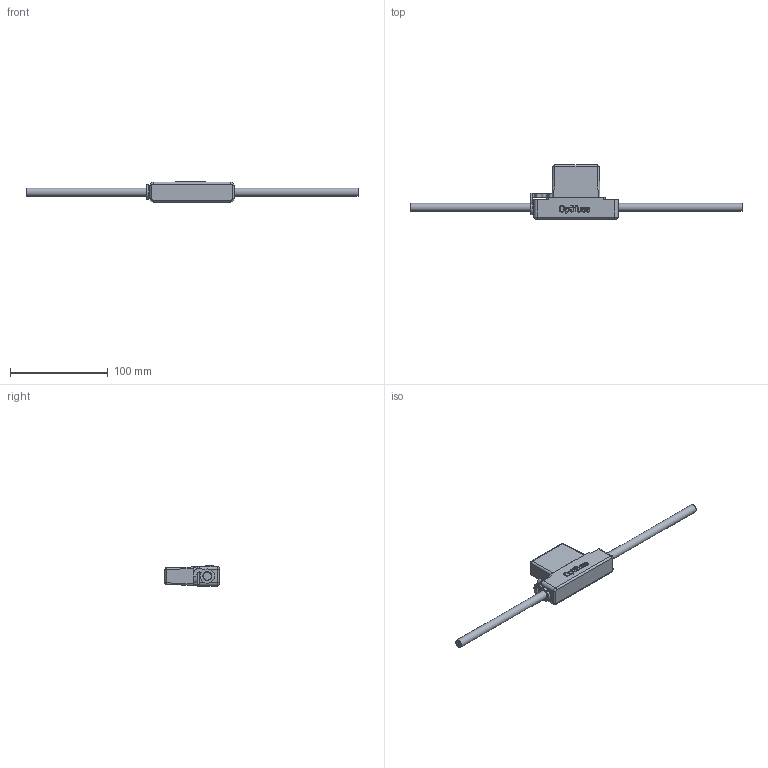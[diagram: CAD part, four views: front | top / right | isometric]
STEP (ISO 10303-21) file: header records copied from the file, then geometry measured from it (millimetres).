
FILE_DESCRIPTION(/* description */ (''),/* implementation_level */ '2;1');
FILE_NAME(/* name */ 'C:\Users\Hani\Desktop\work\LPX-04B\LPX-04.stp',/* time_stamp */ '2021-07-17T11:28:56-07:00',/* author */ ('Hani'),/* organization */ (''),/* preprocessor_version */ 'ST-DEVELOPER v17',/* originating_system */ 'Autodesk Inventor 2019',/* authorisation */ '');
FILE_SCHEMA (('AUTOMOTIVE_DESIGN { 1 0 10303 214 3 1 1 }'));
Length unit declared in the file: inch
Products named in the file (1): LPX-01
Bounding box: 340.11 x 55.4 x 20.57 mm (x, y, z)
Volume: 63497.2 mm3; surface area: 24945.8 mm2
Topology: 3 solids, 3 shells, 209 faces, 537 edges, 350 vertices
Faces by surface type: plane 104, bspline 77, cylinder 24, sphere 4
Full cylindrical faces by diameter (mm): 8.331 x2, 9.144 x1
Entity records: 7525 total; most frequent: CARTESIAN_POINT 2865, ORIENTED_EDGE 1074, DIRECTION 706, EDGE_CURVE 537, VERTEX_POINT 350, LINE 336, VECTOR 336, EDGE_LOOP 227
